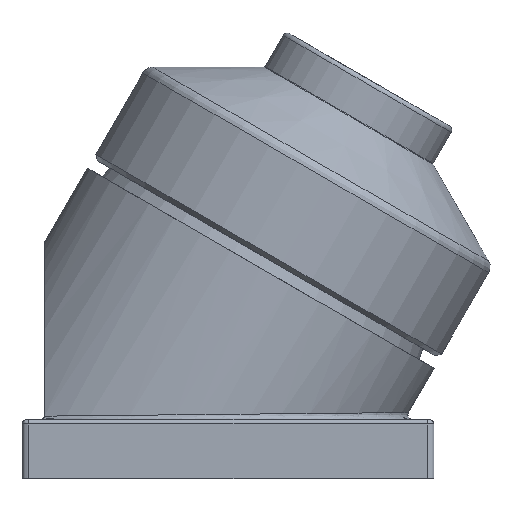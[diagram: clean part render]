
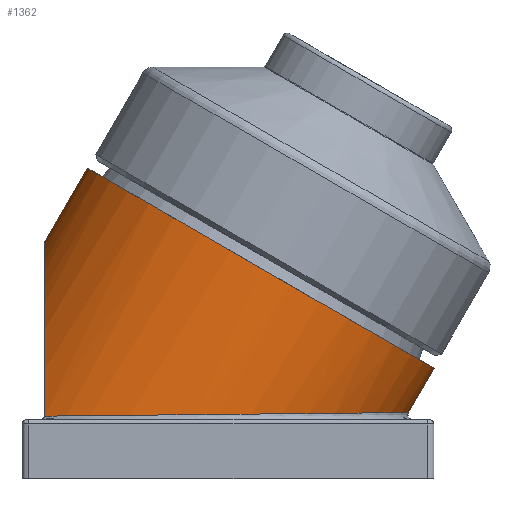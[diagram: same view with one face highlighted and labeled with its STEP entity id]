
A CAD part, left-side view. The second image highlights one B-rep face of the part: STEP entity #1362.
In plain terms, the highlighted cylindrical face has radius 87.5 mm (diameter 175 mm), a full revolution.
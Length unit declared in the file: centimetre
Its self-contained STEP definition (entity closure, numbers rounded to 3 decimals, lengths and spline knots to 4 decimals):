
#61=ELLIPSE('',#1495,10.1619,8.75);
#63=ELLIPSE('',#1500,17.5,8.75);
#74=B_SPLINE_CURVE_WITH_KNOTS('',3,(#2571,#2572,#2573,#2574,#2575,#2576),
 .UNSPECIFIED.,.F.,.F.,(4,2,4),(0.7222,0.7545,0.7786),
 .UNSPECIFIED.);
#75=B_SPLINE_CURVE_WITH_KNOTS('',3,(#2579,#2580,#2581,#2582,#2583,#2584),
 .UNSPECIFIED.,.F.,.F.,(4,2,4),(0.5728,0.5968,0.6291),
 .UNSPECIFIED.);
#76=B_SPLINE_CURVE_WITH_KNOTS('',3,(#2591,#2592,#2593,#2594,#2595,#2596,
#2597,#2598,#2599,#2600,#2601,#2602,#2603,#2604,#2605,#2606,#2607,#2608),
 .UNSPECIFIED.,.F.,.F.,(4,2,2,2,2,2,2,2,4),(0.6363,0.7954,
0.9545,1.1135,1.2726,1.4316,1.5907,
1.7498,1.9088),.UNSPECIFIED.);
#77=B_SPLINE_CURVE_WITH_KNOTS('',3,(#2609,#2610,#2611,#2612,#2613,#2614,
#2615,#2616,#2617,#2618,#2619,#2620,#2621,#2622,#2623,#2624,#2625,#2626,
#2627),.UNSPECIFIED.,.F.,.F.,(4,2,2,2,3,2,2,2,4),(1.9088,2.0679,
2.227,2.3861,2.5451,2.7041,2.8632,
3.0223,3.1814),.UNSPECIFIED.);
#109=CYLINDRICAL_SURFACE('',#1498,8.75);
#163=FACE_BOUND('',#394,.T.);
#164=FACE_BOUND('',#395,.T.);
#267=FACE_OUTER_BOUND('',#393,.T.);
#393=EDGE_LOOP('',(#975));
#394=EDGE_LOOP('',(#976,#977,#978,#979));
#395=EDGE_LOOP('',(#980,#981));
#563=CIRCLE('',#1499,8.75);
#672=VERTEX_POINT('',#2538);
#673=VERTEX_POINT('',#2539);
#676=VERTEX_POINT('',#2570);
#677=VERTEX_POINT('',#2577);
#678=VERTEX_POINT('',#2586);
#679=VERTEX_POINT('',#2589);
#680=VERTEX_POINT('',#2590);
#796=EDGE_CURVE('',#672,#673,#61,.T.);
#801=EDGE_CURVE('',#673,#676,#74,.T.);
#803=EDGE_CURVE('',#677,#672,#75,.T.);
#804=EDGE_CURVE('',#678,#678,#563,.T.);
#805=EDGE_CURVE('',#677,#676,#63,.T.);
#806=EDGE_CURVE('',#679,#680,#76,.T.);
#807=EDGE_CURVE('',#680,#679,#77,.T.);
#975=ORIENTED_EDGE('',*,*,#804,.T.);
#976=ORIENTED_EDGE('',*,*,#796,.F.);
#977=ORIENTED_EDGE('',*,*,#803,.F.);
#978=ORIENTED_EDGE('',*,*,#805,.T.);
#979=ORIENTED_EDGE('',*,*,#801,.F.);
#980=ORIENTED_EDGE('',*,*,#806,.T.);
#981=ORIENTED_EDGE('',*,*,#807,.T.);
#1362=ADVANCED_FACE('',(#267,#163,#164),#109,.T.);
#1495=AXIS2_PLACEMENT_3D('',#2540,#1754,#1755);
#1498=AXIS2_PLACEMENT_3D('',#2585,#1762,#1763);
#1499=AXIS2_PLACEMENT_3D('',#2587,#1764,#1765);
#1500=AXIS2_PLACEMENT_3D('',#2588,#1766,#1767);
#1754=DIRECTION('center_axis',(0.,-0.01,
-1.));
#1755=DIRECTION('ref_axis',(0.,-1.,0.01));
#1762=DIRECTION('center_axis',(0.,0.5,-0.866));
#1763=DIRECTION('ref_axis',(-1.,0.,0.));
#1764=DIRECTION('center_axis',(0.,0.5,-0.866));
#1765=DIRECTION('ref_axis',(1.,0.,0.));
#1766=DIRECTION('center_axis',(0.,-1.,0.));
#1767=DIRECTION('ref_axis',(0.,0.,1.));
#2538=CARTESIAN_POINT('',(7.2225,10.3156,2.7436));
#2539=CARTESIAN_POINT('',(-7.2225,10.3156,2.7436));
#2540=CARTESIAN_POINT('Origin',(0.,4.5795,2.8));
#2570=CARTESIAN_POINT('',(-7.208,10.3075,2.8));
#2571=CARTESIAN_POINT('Ctrl Pts',(-7.2225,10.3156,2.7436));
#2572=CARTESIAN_POINT('Ctrl Pts',(-7.2208,10.3125,2.7542));
#2573=CARTESIAN_POINT('Ctrl Pts',(-7.2184,10.3103,2.765));
#2574=CARTESIAN_POINT('Ctrl Pts',(-7.2132,10.308,2.784));
#2575=CARTESIAN_POINT('Ctrl Pts',(-7.2107,10.3075,2.792));
#2576=CARTESIAN_POINT('Ctrl Pts',(-7.208,10.3075,2.8));
#2577=CARTESIAN_POINT('',(7.208,10.3075,2.8));
#2579=CARTESIAN_POINT('Ctrl Pts',(7.208,10.3075,2.8));
#2580=CARTESIAN_POINT('Ctrl Pts',(7.2107,10.3075,2.792));
#2581=CARTESIAN_POINT('Ctrl Pts',(7.2132,10.308,2.784));
#2582=CARTESIAN_POINT('Ctrl Pts',(7.2184,10.3103,2.765));
#2583=CARTESIAN_POINT('Ctrl Pts',(7.2208,10.3125,2.7542));
#2584=CARTESIAN_POINT('Ctrl Pts',(7.2225,10.3156,2.7436));
#2585=CARTESIAN_POINT('Origin',(0.,3.5383,4.6036));
#2586=CARTESIAN_POINT('',(-8.75,0.88,9.2078));
#2587=CARTESIAN_POINT('Origin',(0.,0.88,
9.2078));
#2588=CARTESIAN_POINT('Origin',(0.,10.3075,-7.1211));
#2589=CARTESIAN_POINT('',(8.75,1.7112,7.7681));
#2590=CARTESIAN_POINT('',(8.75,1.2888,8.4997));
#2591=CARTESIAN_POINT('Ctrl Pts',(8.75,1.7112,7.7681));
#2592=CARTESIAN_POINT('Ctrl Pts',(8.75,1.6653,7.7416));
#2593=CARTESIAN_POINT('Ctrl Pts',(8.7495,1.611,7.7225));
#2594=CARTESIAN_POINT('Ctrl Pts',(8.7475,1.4993,7.7079));
#2595=CARTESIAN_POINT('Ctrl Pts',(8.7462,1.4419,7.7123));
#2596=CARTESIAN_POINT('Ctrl Pts',(8.7436,1.3395,7.7398));
#2597=CARTESIAN_POINT('Ctrl Pts',(8.7423,1.2877,7.7647));
#2598=CARTESIAN_POINT('Ctrl Pts',(8.7403,1.1984,7.8333));
#2599=CARTESIAN_POINT('Ctrl Pts',(8.7398,1.161,7.877));
#2600=CARTESIAN_POINT('Ctrl Pts',(8.7398,1.108,7.9688));
#2601=CARTESIAN_POINT('Ctrl Pts',(8.7403,1.0889,8.0231));
#2602=CARTESIAN_POINT('Ctrl Pts',(8.7423,1.0741,8.1347));
#2603=CARTESIAN_POINT('Ctrl Pts',(8.7436,1.0785,8.1921));
#2604=CARTESIAN_POINT('Ctrl Pts',(8.7462,1.1059,8.2945));
#2605=CARTESIAN_POINT('Ctrl Pts',(8.7475,1.1307,8.3464));
#2606=CARTESIAN_POINT('Ctrl Pts',(8.7495,1.1992,8.4357));
#2607=CARTESIAN_POINT('Ctrl Pts',(8.75,1.2429,8.4732));
#2608=CARTESIAN_POINT('Ctrl Pts',(8.75,1.2888,8.4997));
#2609=CARTESIAN_POINT('Ctrl Pts',(8.75,1.2888,8.4997));
#2610=CARTESIAN_POINT('Ctrl Pts',(8.75,1.3347,8.5262));
#2611=CARTESIAN_POINT('Ctrl Pts',(8.7495,1.389,8.5453));
#2612=CARTESIAN_POINT('Ctrl Pts',(8.7475,1.5007,8.56));
#2613=CARTESIAN_POINT('Ctrl Pts',(8.7462,1.558,8.5555));
#2614=CARTESIAN_POINT('Ctrl Pts',(8.7436,1.6604,8.528));
#2615=CARTESIAN_POINT('Ctrl Pts',(8.7423,1.7123,8.5031));
#2616=CARTESIAN_POINT('Ctrl Pts',(8.7403,1.8016,8.4346));
#2617=CARTESIAN_POINT('Ctrl Pts',(8.7398,1.839,8.3909));
#2618=CARTESIAN_POINT('Ctrl Pts',(8.7398,1.8655,8.345));
#2619=CARTESIAN_POINT('Ctrl Pts',(8.7398,1.892,8.299));
#2620=CARTESIAN_POINT('Ctrl Pts',(8.7403,1.9111,8.2448));
#2621=CARTESIAN_POINT('Ctrl Pts',(8.7423,1.9259,8.1332));
#2622=CARTESIAN_POINT('Ctrl Pts',(8.7436,1.9215,8.0758));
#2623=CARTESIAN_POINT('Ctrl Pts',(8.7462,1.8941,7.9734));
#2624=CARTESIAN_POINT('Ctrl Pts',(8.7475,1.8693,7.9215));
#2625=CARTESIAN_POINT('Ctrl Pts',(8.7495,1.8008,7.8321));
#2626=CARTESIAN_POINT('Ctrl Pts',(8.75,1.7571,7.7947));
#2627=CARTESIAN_POINT('Ctrl Pts',(8.75,1.7112,7.7681));
